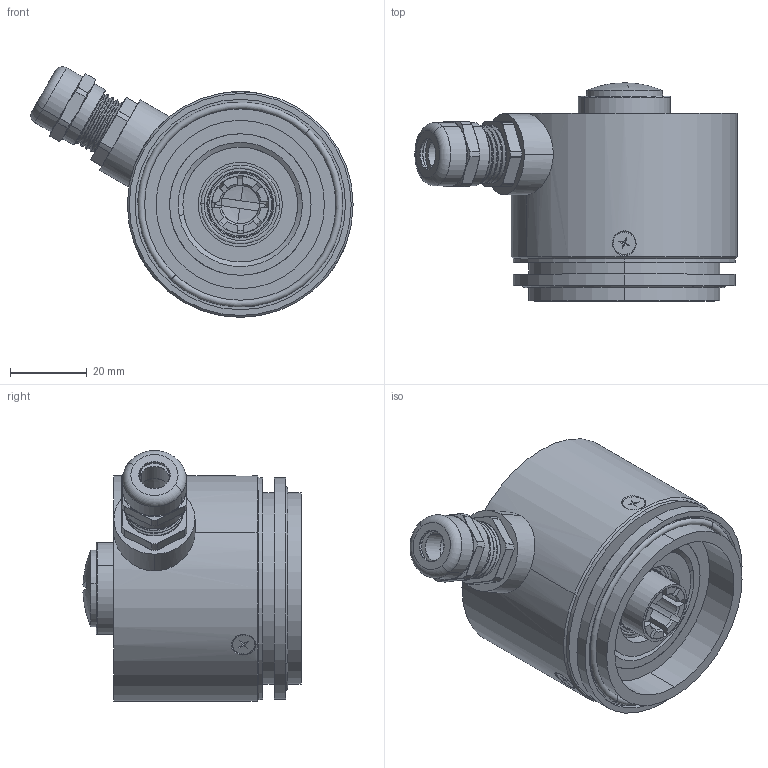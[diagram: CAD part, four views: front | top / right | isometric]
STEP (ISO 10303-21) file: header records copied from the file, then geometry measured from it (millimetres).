
FILE_DESCRIPTION (( 'STEP AP203' ), '1' );
FILE_NAME ('Encoder Cerâmico.STEP', '2026-08-27T12:15:33', ( '' ), ( '' ), 'SwSTEP 2.0', 'SolidWorks 2026', '' );
FILE_SCHEMA (( 'CONFIG_CONTROL_DESIGN' ));
Length unit declared in the file: millimetre
Products named in the file (1): Encoder Cerâmico
Bounding box: 84.22 x 56.98 x 65.55 mm (x, y, z)
Surface area: 26958.6 mm2 (no closed solid volume)
Topology: 0 solids, 18 shells, 317 faces, 903 edges, 567 vertices
Faces by surface type: cylinder 100, plane 89, cone 52, torus 38, bspline 35, sphere 3
Entity records: 12233 total; most frequent: CARTESIAN_POINT 4334, DIRECTION 1719, ORIENTED_EDGE 1470, EDGE_CURVE 895, AXIS2_PLACEMENT_3D 727, VERTEX_POINT 567, CIRCLE 444, EDGE_LOOP 346
